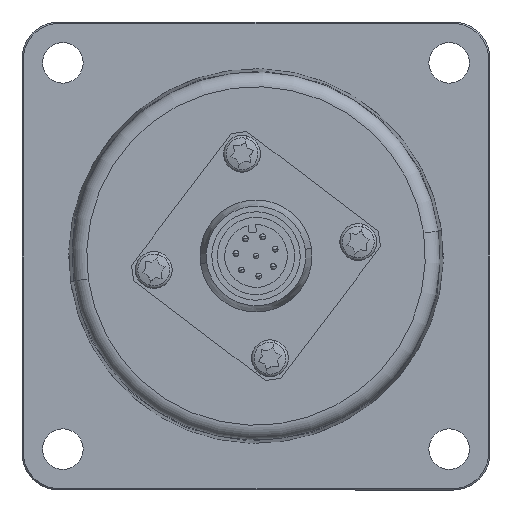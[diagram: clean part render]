
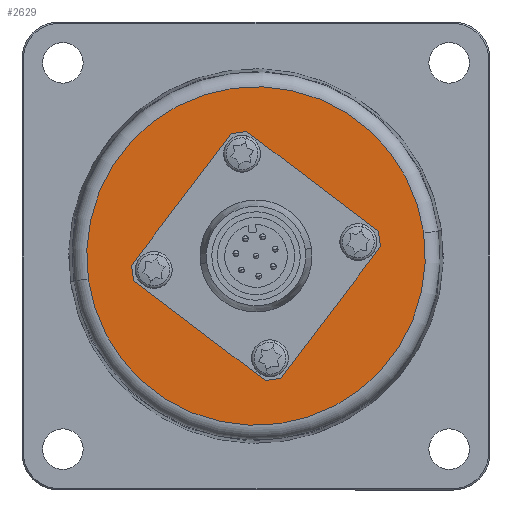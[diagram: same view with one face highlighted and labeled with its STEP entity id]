
A CAD part, left-side view. The second image highlights one B-rep face of the part: STEP entity #2629.
In plain terms, the highlighted planar face has unit normal (-1, 0, 0).
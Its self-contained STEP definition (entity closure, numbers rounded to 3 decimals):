
#2022 = VERTEX_POINT ( 'NONE', #10745 ) ;
#2098 = VERTEX_POINT ( 'NONE', #11556 ) ;
#2101 = EDGE_CURVE ( 'NONE', #2098, #2022, #11538, .T. ) ;
#2245 = VERTEX_POINT ( 'NONE', #12091 ) ;
#2256 = VERTEX_POINT ( 'NONE', #12113 ) ;
#2258 = EDGE_CURVE ( 'NONE', #2259, #2256, #12112, .T. ) ;
#2259 = VERTEX_POINT ( 'NONE', #12107 ) ;
#2281 = VERTEX_POINT ( 'NONE', #12198 ) ;
#2283 = EDGE_CURVE ( 'NONE', #2284, #2281, #12197, .T. ) ;
#2284 = VERTEX_POINT ( 'NONE', #12192 ) ;
#2289 = EDGE_CURVE ( 'NONE', #2290, #2349, #12234, .T. ) ;
#2290 = VERTEX_POINT ( 'NONE', #12229 ) ;
#2301 = VERTEX_POINT ( 'NONE', #12254 ) ;
#2303 = EDGE_CURVE ( 'NONE', #2245, #2301, #12253, .T. ) ;
#2349 = VERTEX_POINT ( 'NONE', #12415 ) ;
#2360 = VERTEX_POINT ( 'NONE', #12457 ) ;
#2362 = EDGE_CURVE ( 'NONE', #2360, #2363, #12456, .T. ) ;
#2363 = VERTEX_POINT ( 'NONE', #12451 ) ;
#2604 = ORIENTED_EDGE ( 'NONE', *, *, #2362, .F. ) ;
#2610 = ORIENTED_EDGE ( 'NONE', *, *, #2622, .T. ) ;
#2611 = ORIENTED_EDGE ( 'NONE', *, *, #2612, .T. ) ;
#2612 = EDGE_CURVE ( 'NONE', #2256, #2259, #13314, .T. ) ;
#2613 = EDGE_LOOP ( 'NONE', ( #2619, #2620 ) ) ;
#2614 = EDGE_LOOP ( 'NONE', ( #2627, #2610 ) ) ;
#2616 = EDGE_LOOP ( 'NONE', ( #2617, #2618 ) ) ;
#2617 = ORIENTED_EDGE ( 'NONE', *, *, #2289, .T. ) ;
#2618 = ORIENTED_EDGE ( 'NONE', *, *, #2674, .T. ) ;
#2619 = ORIENTED_EDGE ( 'NONE', *, *, #2303, .T. ) ;
#2620 = ORIENTED_EDGE ( 'NONE', *, *, #2621, .T. ) ;
#2621 = EDGE_CURVE ( 'NONE', #2301, #2245, #13308, .T. ) ;
#2622 = EDGE_CURVE ( 'NONE', #2281, #2284, #13288, .T. ) ;
#2623 = EDGE_LOOP ( 'NONE', ( #2624, #2611 ) ) ;
#2624 = ORIENTED_EDGE ( 'NONE', *, *, #2258, .T. ) ;
#2627 = ORIENTED_EDGE ( 'NONE', *, *, #2283, .T. ) ;
#2629 = ADVANCED_FACE ( 'NONE', ( #13282, #13281, #13280, #13338, #13337, #13336 ), #13321, .F. ) ;
#2674 = EDGE_CURVE ( 'NONE', #2349, #2290, #13512, .T. ) ;
#2675 = EDGE_LOOP ( 'NONE', ( #2676, #2678 ) ) ;
#2676 = ORIENTED_EDGE ( 'NONE', *, *, #2677, .T. ) ;
#2677 = EDGE_CURVE ( 'NONE', #2022, #2098, #13507, .T. ) ;
#2678 = ORIENTED_EDGE ( 'NONE', *, *, #2101, .T. ) ;
#2679 = EDGE_LOOP ( 'NONE', ( #2680, #2604 ) ) ;
#2680 = ORIENTED_EDGE ( 'NONE', *, *, #2681, .F. ) ;
#2681 = EDGE_CURVE ( 'NONE', #2363, #2360, #13501, .T. ) ;
#10745 = CARTESIAN_POINT ( 'NONE',  ( -21., 22.761, -3.107 ) ) ;
#11538 = CIRCLE ( 'NONE', #11592, 22.972 ) ;
#11556 = CARTESIAN_POINT ( 'NONE',  ( -21., -22.761, 3.107 ) ) ;
#11589 = DIRECTION ( 'NONE',  ( 0., 0.991, -0.135 ) ) ;
#11590 = DIRECTION ( 'NONE',  ( -1., 0., 0. ) ) ;
#11591 = CARTESIAN_POINT ( 'NONE',  ( -21., 0., 0. ) ) ;
#11592 = AXIS2_PLACEMENT_3D ( 'NONE', #11591, #11590, #11589 ) ;
#12091 = CARTESIAN_POINT ( 'NONE',  ( -21., 0.518, 14.06 ) ) ;
#12107 = CARTESIAN_POINT ( 'NONE',  ( -21., -3.269, -13.684 ) ) ;
#12108 = DIRECTION ( 'NONE',  ( 0., 0.991, -0.135 ) ) ;
#12109 = DIRECTION ( 'NONE',  ( 1., 0., 0. ) ) ;
#12110 = CARTESIAN_POINT ( 'NONE',  ( -21., -1.894, -13.872 ) ) ;
#12111 = AXIS2_PLACEMENT_3D ( 'NONE', #12110, #12109, #12108 ) ;
#12112 = CIRCLE ( 'NONE', #12111, 1.389 ) ;
#12113 = CARTESIAN_POINT ( 'NONE',  ( -21., -0.518, -14.06 ) ) ;
#12192 = CARTESIAN_POINT ( 'NONE',  ( -21., 12.496, -1.706 ) ) ;
#12193 = DIRECTION ( 'NONE',  ( 0., 0.991, -0.135 ) ) ;
#12194 = DIRECTION ( 'NONE',  ( 1., 0., 0. ) ) ;
#12195 = CARTESIAN_POINT ( 'NONE',  ( -21., 13.872, -1.894 ) ) ;
#12196 = AXIS2_PLACEMENT_3D ( 'NONE', #12195, #12194, #12193 ) ;
#12197 = CIRCLE ( 'NONE', #12196, 1.389 ) ;
#12198 = CARTESIAN_POINT ( 'NONE',  ( -21., 15.248, -2.081 ) ) ;
#12229 = CARTESIAN_POINT ( 'NONE',  ( -21., -15.248, 2.081 ) ) ;
#12230 = DIRECTION ( 'NONE',  ( 0., 0.991, -0.135 ) ) ;
#12231 = DIRECTION ( 'NONE',  ( 1., 0., 0. ) ) ;
#12232 = CARTESIAN_POINT ( 'NONE',  ( -21., -13.872, 1.894 ) ) ;
#12233 = AXIS2_PLACEMENT_3D ( 'NONE', #12232, #12231, #12230 ) ;
#12234 = CIRCLE ( 'NONE', #12233, 1.389 ) ;
#12249 = DIRECTION ( 'NONE',  ( 0., 0.991, -0.135 ) ) ;
#12250 = DIRECTION ( 'NONE',  ( 1., 0., 0. ) ) ;
#12251 = CARTESIAN_POINT ( 'NONE',  ( -21., 1.894, 13.872 ) ) ;
#12252 = AXIS2_PLACEMENT_3D ( 'NONE', #12251, #12250, #12249 ) ;
#12253 = CIRCLE ( 'NONE', #12252, 1.389 ) ;
#12254 = CARTESIAN_POINT ( 'NONE',  ( -21., 3.269, 13.684 ) ) ;
#12415 = CARTESIAN_POINT ( 'NONE',  ( -21., -12.496, 1.706 ) ) ;
#12451 = CARTESIAN_POINT ( 'NONE',  ( -21., -11.394, 1.555 ) ) ;
#12452 = DIRECTION ( 'NONE',  ( 0., -0.991, 0.135 ) ) ;
#12453 = DIRECTION ( 'NONE',  ( -1., 0., 0. ) ) ;
#12454 = CARTESIAN_POINT ( 'NONE',  ( -21., 0., 0. ) ) ;
#12455 = AXIS2_PLACEMENT_3D ( 'NONE', #12454, #12453, #12452 ) ;
#12456 = CIRCLE ( 'NONE', #12455, 11.5 ) ;
#12457 = CARTESIAN_POINT ( 'NONE',  ( -21., 11.394, -1.555 ) ) ;
#13280 = FACE_BOUND ( 'NONE', #2613, .T. ) ;
#13281 = FACE_BOUND ( 'NONE', #2623, .T. ) ;
#13282 = FACE_BOUND ( 'NONE', #2614, .T. ) ;
#13284 = DIRECTION ( 'NONE',  ( 0., 0.991, -0.135 ) ) ;
#13285 = DIRECTION ( 'NONE',  ( 1., 0., 0. ) ) ;
#13286 = CARTESIAN_POINT ( 'NONE',  ( -21., 13.872, -1.894 ) ) ;
#13287 = AXIS2_PLACEMENT_3D ( 'NONE', #13286, #13285, #13284 ) ;
#13288 = CIRCLE ( 'NONE', #13287, 1.389 ) ;
#13290 = DIRECTION ( 'NONE',  ( 0., 0.991, -0.135 ) ) ;
#13291 = DIRECTION ( 'NONE',  ( 1., 0., 0. ) ) ;
#13306 = CARTESIAN_POINT ( 'NONE',  ( -21., 1.894, 13.872 ) ) ;
#13307 = AXIS2_PLACEMENT_3D ( 'NONE', #13306, #13291, #13290 ) ;
#13308 = CIRCLE ( 'NONE', #13307, 1.389 ) ;
#13310 = DIRECTION ( 'NONE',  ( 0., 0.991, -0.135 ) ) ;
#13311 = DIRECTION ( 'NONE',  ( 1., 0., 0. ) ) ;
#13312 = CARTESIAN_POINT ( 'NONE',  ( -21., -1.894, -13.872 ) ) ;
#13313 = AXIS2_PLACEMENT_3D ( 'NONE', #13312, #13311, #13310 ) ;
#13314 = CIRCLE ( 'NONE', #13313, 1.389 ) ;
#13316 = DIRECTION ( 'NONE',  ( 0., 0.991, -0.135 ) ) ;
#13317 = DIRECTION ( 'NONE',  ( 1., 0., 0. ) ) ;
#13318 = CARTESIAN_POINT ( 'NONE',  ( -21., 0., 0. ) ) ;
#13319 = AXIS2_PLACEMENT_3D ( 'NONE', #13318, #13317, #13316 ) ;
#13321 = PLANE ( 'NONE',  #13319 ) ;
#13336 = FACE_BOUND ( 'NONE', #2679, .T. ) ;
#13337 = FACE_OUTER_BOUND ( 'NONE', #2675, .T. ) ;
#13338 = FACE_BOUND ( 'NONE', #2616, .T. ) ;
#13497 = DIRECTION ( 'NONE',  ( 0., -0.991, 0.135 ) ) ;
#13498 = DIRECTION ( 'NONE',  ( -1., 0., 0. ) ) ;
#13499 = CARTESIAN_POINT ( 'NONE',  ( -21., 0., 0. ) ) ;
#13500 = AXIS2_PLACEMENT_3D ( 'NONE', #13499, #13498, #13497 ) ;
#13501 = CIRCLE ( 'NONE', #13500, 11.5 ) ;
#13503 = DIRECTION ( 'NONE',  ( 0., 0.991, -0.135 ) ) ;
#13504 = DIRECTION ( 'NONE',  ( -1., 0., 0. ) ) ;
#13505 = CARTESIAN_POINT ( 'NONE',  ( -21., 0., 0. ) ) ;
#13506 = AXIS2_PLACEMENT_3D ( 'NONE', #13505, #13504, #13503 ) ;
#13507 = CIRCLE ( 'NONE', #13506, 22.972 ) ;
#13508 = DIRECTION ( 'NONE',  ( 0., 0.991, -0.135 ) ) ;
#13509 = DIRECTION ( 'NONE',  ( 1., 0., 0. ) ) ;
#13510 = CARTESIAN_POINT ( 'NONE',  ( -21., -13.872, 1.894 ) ) ;
#13511 = AXIS2_PLACEMENT_3D ( 'NONE', #13510, #13509, #13508 ) ;
#13512 = CIRCLE ( 'NONE', #13511, 1.389 ) ;
